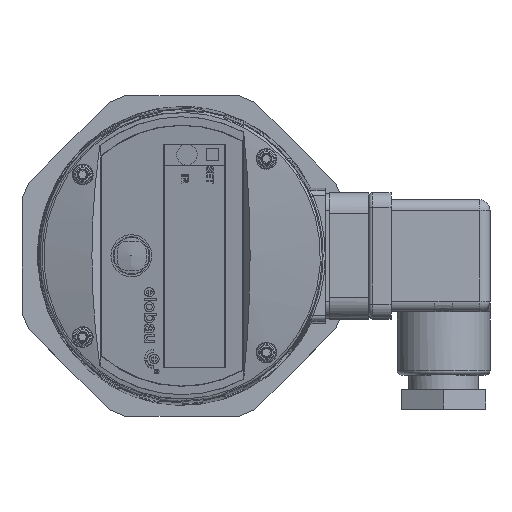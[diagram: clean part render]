
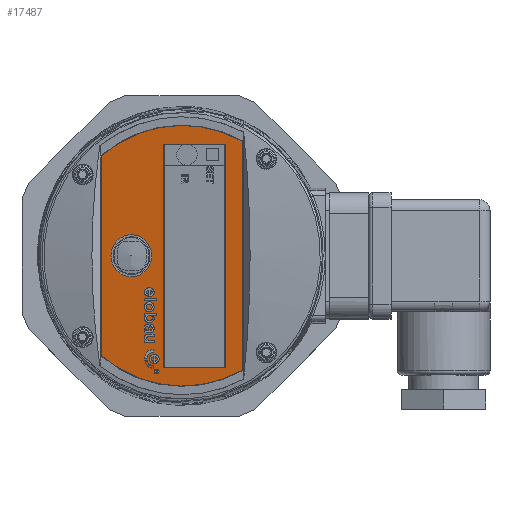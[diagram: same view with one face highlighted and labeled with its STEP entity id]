
A CAD part, top view. The second image highlights one B-rep face of the part: STEP entity #17487.
In plain terms, the highlighted planar face has unit normal (-0.259, 0, 0.966).
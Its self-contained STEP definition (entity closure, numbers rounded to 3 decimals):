
#9404=LINE('',#118612,#11796);
#9405=LINE('',#118617,#11797);
#9406=LINE('',#118620,#11798);
#9407=LINE('',#118623,#11799);
#9408=LINE('',#118625,#11800);
#9409=LINE('',#118627,#11801);
#11796=VECTOR('',#57143,1.);
#11797=VECTOR('',#57146,1.);
#11798=VECTOR('',#57149,1.);
#11799=VECTOR('',#57150,1.);
#11800=VECTOR('',#57151,1.);
#11801=VECTOR('',#57152,1.);
#12966=PLANE('',#48451);
#17487=ADVANCED_FACE('',(#18616,#18617,#18618),#12966,.F.);
#18616=FACE_BOUND('',#21340,.T.);
#18617=FACE_BOUND('',#21341,.T.);
#18618=FACE_BOUND('',#21342,.T.);
#21340=EDGE_LOOP('',(#33202));
#21341=EDGE_LOOP('',(#33203,#33204,#33205,#33206));
#21342=EDGE_LOOP('',(#33207,#33208,#33209,#33210));
#33202=ORIENTED_EDGE('',*,*,#43613,.T.);
#33203=ORIENTED_EDGE('',*,*,#43614,.T.);
#33204=ORIENTED_EDGE('',*,*,#43615,.T.);
#33205=ORIENTED_EDGE('',*,*,#43616,.T.);
#33206=ORIENTED_EDGE('',*,*,#43617,.T.);
#33207=ORIENTED_EDGE('',*,*,#43618,.T.);
#33208=ORIENTED_EDGE('',*,*,#43619,.T.);
#33209=ORIENTED_EDGE('',*,*,#43620,.T.);
#33210=ORIENTED_EDGE('',*,*,#43621,.T.);
#37577=VERTEX_POINT('',#118611);
#37578=VERTEX_POINT('',#118613);
#37579=VERTEX_POINT('',#118614);
#37580=VERTEX_POINT('',#118616);
#37581=VERTEX_POINT('',#118618);
#37582=VERTEX_POINT('',#118621);
#37583=VERTEX_POINT('',#118622);
#37584=VERTEX_POINT('',#118624);
#37585=VERTEX_POINT('',#118626);
#43613=EDGE_CURVE('',#37577,#37577,#45261,.T.);
#43614=EDGE_CURVE('',#37578,#37579,#9404,.T.);
#43615=EDGE_CURVE('',#37579,#37580,#45262,.T.);
#43616=EDGE_CURVE('',#37580,#37581,#9405,.T.);
#43617=EDGE_CURVE('',#37581,#37578,#45263,.T.);
#43618=EDGE_CURVE('',#37582,#37583,#9406,.T.);
#43619=EDGE_CURVE('',#37583,#37584,#9407,.T.);
#43620=EDGE_CURVE('',#37584,#37585,#9408,.T.);
#43621=EDGE_CURVE('',#37585,#37582,#9409,.T.);
#45261=CIRCLE('',#48448,5.);
#45262=CIRCLE('',#48449,30.95);
#45263=CIRCLE('',#48450,30.95);
#48448=AXIS2_PLACEMENT_3D('',#118610,#57141,#57142);
#48449=AXIS2_PLACEMENT_3D('',#118615,#57144,#57145);
#48450=AXIS2_PLACEMENT_3D('',#118619,#57147,#57148);
#48451=AXIS2_PLACEMENT_3D('',#118628,#57153,#57154);
#57141=DIRECTION('',(0.259,0.,-0.966));
#57142=DIRECTION('',(0.966,0.,0.259));
#57143=DIRECTION('',(0.,1.,0.));
#57144=DIRECTION('',(-0.259,0.,0.966));
#57145=DIRECTION('',(0.,-1.,0.));
#57146=DIRECTION('',(0.,-1.,0.));
#57147=DIRECTION('',(-0.259,0.,0.966));
#57148=DIRECTION('',(0.,-1.,0.));
#57149=DIRECTION('',(0.,1.,0.));
#57150=DIRECTION('',(0.966,0.,0.259));
#57151=DIRECTION('',(0.,-1.,0.));
#57152=DIRECTION('',(-0.966,0.,-0.259));
#57153=DIRECTION('',(0.259,0.,-0.966));
#57154=DIRECTION('',(0.966,0.,0.259));
#118610=CARTESIAN_POINT('',(-12.048,0.,38.868));
#118611=CARTESIAN_POINT('',(-7.219,0.,40.162));
#118612=CARTESIAN_POINT('',(14.322,27.182,45.934));
#118613=CARTESIAN_POINT('',(14.322,-27.182,45.934));
#118614=CARTESIAN_POINT('',(14.322,27.182,45.934));
#118615=CARTESIAN_POINT('',(0.026,0.,42.103));
#118616=CARTESIAN_POINT('',(-19.196,23.704,36.953));
#118617=CARTESIAN_POINT('',(-19.196,-23.704,36.953));
#118618=CARTESIAN_POINT('',(-19.196,-23.704,36.953));
#118619=CARTESIAN_POINT('',(0.026,0.,42.103));
#118620=CARTESIAN_POINT('',(-4.321,0.,40.939));
#118621=CARTESIAN_POINT('',(-4.321,-26.5,40.939));
#118622=CARTESIAN_POINT('',(-4.321,26.5,40.939));
#118623=CARTESIAN_POINT('',(0.026,26.5,42.103));
#118624=CARTESIAN_POINT('',(10.168,26.5,44.821));
#118625=CARTESIAN_POINT('',(10.168,0.,44.821));
#118626=CARTESIAN_POINT('',(10.168,-26.5,44.821));
#118627=CARTESIAN_POINT('',(0.026,-26.5,42.103));
#118628=CARTESIAN_POINT('',(0.026,0.,42.103));
